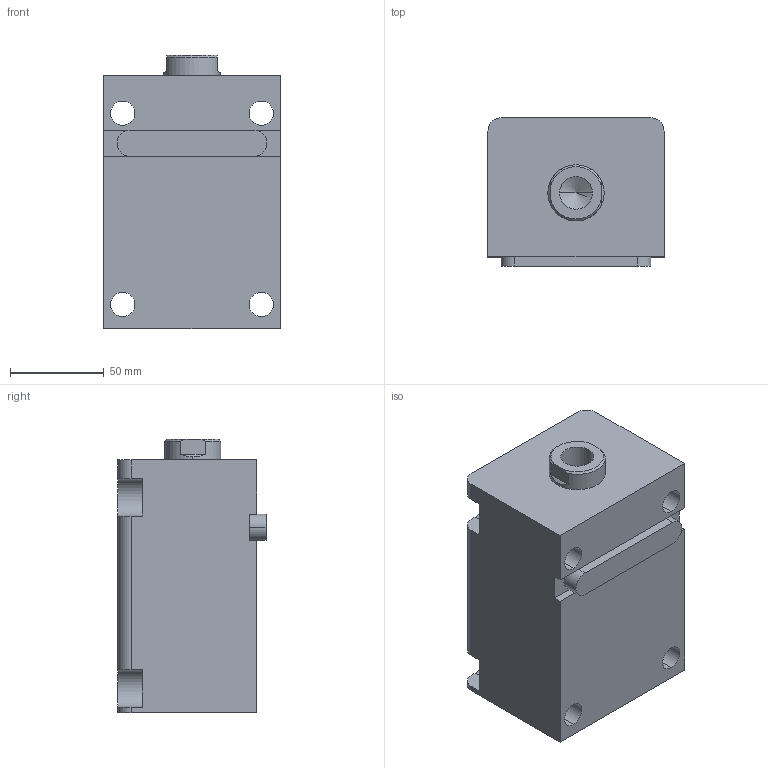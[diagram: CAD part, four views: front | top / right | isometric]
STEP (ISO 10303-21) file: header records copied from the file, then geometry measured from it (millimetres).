
FILE_DESCRIPTION (( 'STEP AP203' ), '1' );
FILE_NAME ('HTB-LA50-75N.STEP', '2019-10-09T07:12:24', ( '微软用户' ), ( '微软中国' ), 'SwSTEP 2.0', 'SolidWorks 2012', '' );
FILE_SCHEMA (( 'CONFIG_CONTROL_DESIGN' ));
Length unit declared in the file: millimetre
Products named in the file (4): HTB-LA50-75N活塞杆; HTB-LA50-75掛极; HTB-LA50-瑩; HTB-LA50-75N
Assembly tree (3 placements, depth 2):
  HTB-LA50-75N
    HTB-LA50-75掛极
    HTB-LA50-75N活塞杆
    HTB-LA50-瑩
Bounding box: 94 x 79 x 146 mm (x, y, z)
Volume: 794764.8 mm3; surface area: 113897.4 mm2
Topology: 3 solids, 3 shells, 86 faces, 213 edges, 139 vertices
Faces by surface type: plane 39, cylinder 35, cone 8, torus 4
Entity records: 3001 total; most frequent: DIRECTION 475, CARTESIAN_POINT 470, ORIENTED_EDGE 422, EDGE_CURVE 211, AXIS2_PLACEMENT_3D 180, VERTEX_POINT 139, LINE 115, VECTOR 115
